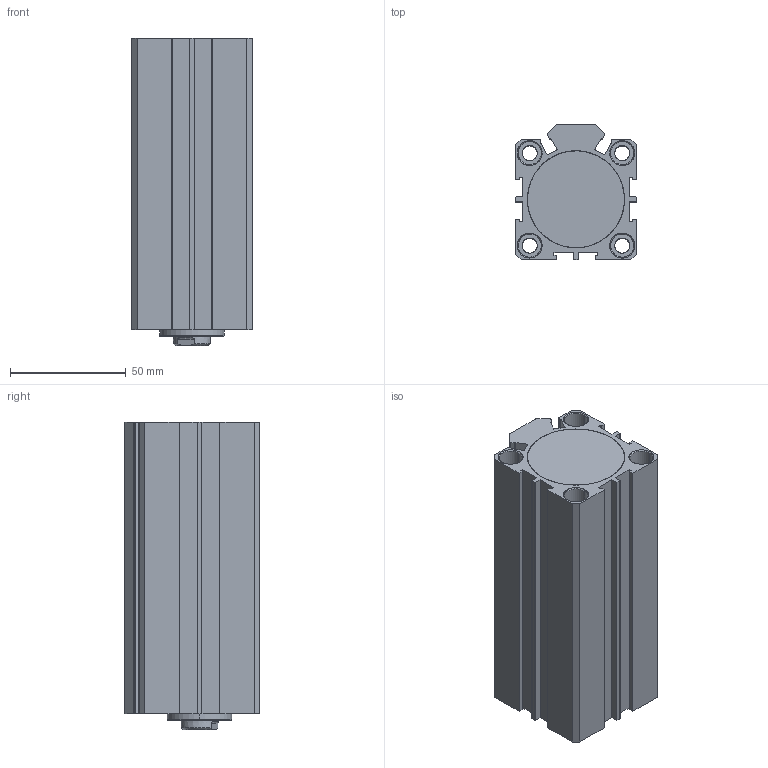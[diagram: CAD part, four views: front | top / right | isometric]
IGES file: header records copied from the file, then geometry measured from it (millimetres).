
Start section: SolidWorks IGES file using analytic representation for surfaces
Global section: file name: D:\ARICA 3D 禽Z軲LER\3D IGES\SDA-S\SDA-S 40\SDA-S-40X90CYLINDER.IGS,1; native system: 5HSolidWorks 2013; preprocessor: SolidWorks 2013; author: user; date: 150803.122706; units: millimetre
Bounding box: 52 x 58.5 x 133 mm (x, y, z)
Surface area: 88035.7 mm2 (no closed solid volume)
Topology: 0 solids, 0 shells, 246 faces, 4981 edges, 4981 vertices
Faces by surface type: revolution 140, bspline 106
